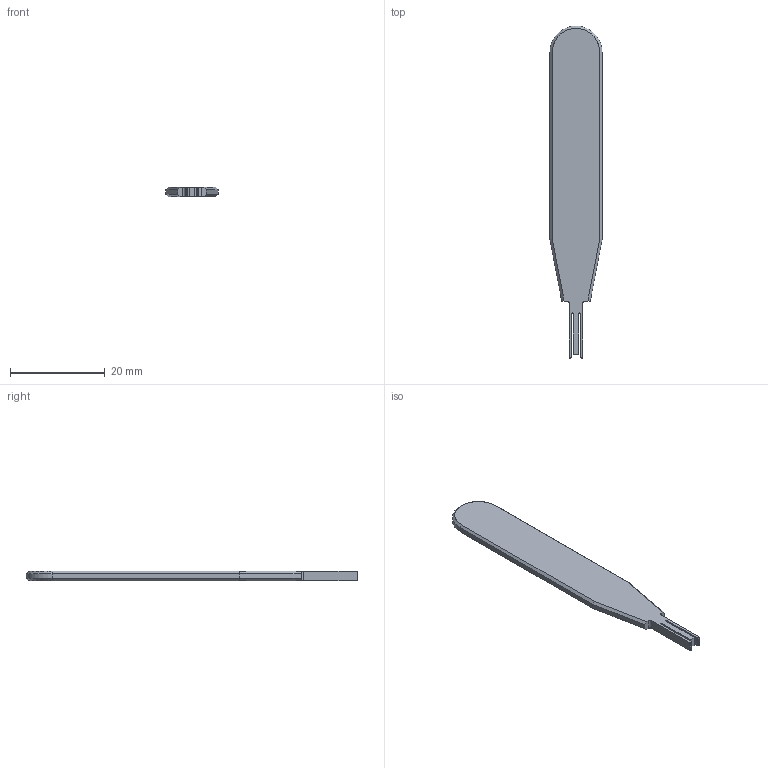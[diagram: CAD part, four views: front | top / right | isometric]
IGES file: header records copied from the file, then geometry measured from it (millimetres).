
Start section: SolidWorks IGES file using analytic representation for surfaces
Global section: file name: C:\3dwork\Toida\アダプタ関連　3Dモデル\90624\90624-MHF 5 MATING TOOL.IGS; native system: SolidWorks 2017; preprocessor: SolidWorks 2017; author: ipxcad-021; date: 200420.151634; units: millimetre
Bounding box: 11 x 70 x 2 mm (x, y, z)
Surface area: 1543.5 mm2 (no closed solid volume)
Topology: 0 solids, 0 shells, 41 faces, 304 edges, 304 vertices
Faces by surface type: bspline 29, revolution 12
